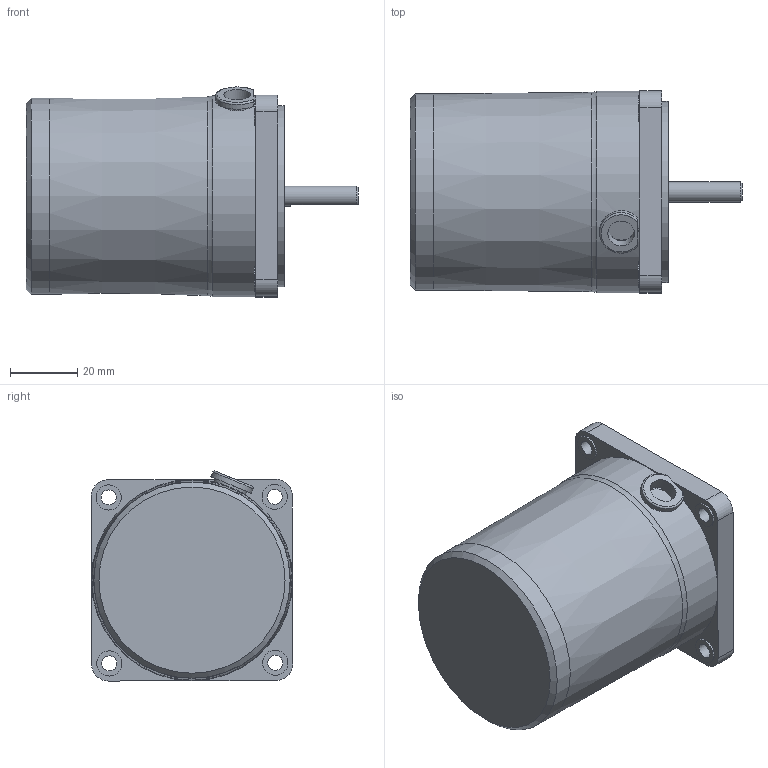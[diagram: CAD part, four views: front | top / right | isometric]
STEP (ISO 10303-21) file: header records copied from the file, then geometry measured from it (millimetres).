
FILE_DESCRIPTION((''),'2;1');
FILE_NAME('D:\김성묵\업무폴더\개발 파일\프로젝트 개발 AB등급\AC표준형 개발자료\90각 이하 표준형 개발\도면작성 자료\3D 도면\홈페이지용 3D 파일\6W MOTOR\S6I06D.stp','2015-03-25T10:44:41',('smkim'),(''),'Autodesk Inventor 2012','Autodesk Inventor 2012','');
FILE_SCHEMA(('AUTOMOTIVE_DESIGN { 1 0 10303 214 1 1 1 1 }'));
Length unit declared in the file: millimetre
Products named in the file (4): S6I06D; S6I06GㅁCE; 6_CORD BUSH; S6_HOUSNG A_D
Assembly tree (3 placements, depth 2):
  S6I06D
    S6I06GㅁCE
    6_CORD BUSH
    S6_HOUSNG A_D
Bounding box: 99 x 60.17 x 62.65 mm (x, y, z)
Volume: 209997.7 mm3; surface area: 29385 mm2
Topology: 3 solids, 3 shells, 84 faces, 206 edges, 135 vertices
Faces by surface type: plane 48, cylinder 29, cone 5, torus 2
Full cylindrical faces by diameter (mm): 4.5 x4, 6 x1, 7.5 x4, 8 x1, 10.1 x1, 25 x1, 54 x1, 58.5 x1, 60 x1
Entity records: 2540 total; most frequent: CARTESIAN_POINT 470, DIRECTION 433, ORIENTED_EDGE 366, EDGE_CURVE 183, AXIS2_PLACEMENT_3D 169, VERTEX_POINT 131, EDGE_LOOP 124, VECTOR 95
